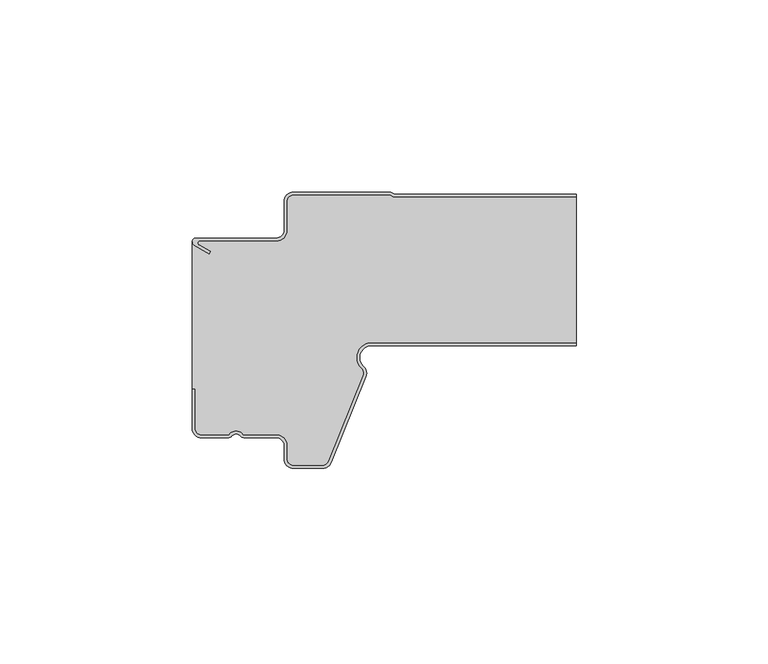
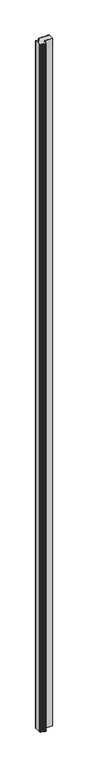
"""IFC4 building model written with IfcOpenShell, lengths in millimetres: plate geometry, ACH_Panel-Cubierta-3-Grecas-P3G : ACH_P3G_3-Rib-Roof-Panel_40M."""

from ifc_helpers import new_model, si_unit, point, frame_2d, origin, origin_with_axes, place, context, project, spatial, polyline, circle_curve, trimmed, segment, composite_curve, outline, extrude, source, transform, mapped, element, save


def plate_1b50292b(model_context):
    return source(origin(), model_context, "Body", "SweptSolid", [
        extrude(outline(composite_curve([segment(polyline([(-49.496875, -13.8660254), (-45.496875, -16.1754265), (-45.096875, -15.4826062), (-48.1272598, -13.7330127)]), True, "CONTINUOUS"), segment(trimmed(circle_curve(frame_2d((-47.8772598, -13.3)), 0.5), [point((-48.1272598, -13.7330127))], [point((-47.8772598, -12.8))], False, "CARTESIAN"), True, "CONTINUOUS"), segment(polyline([(-47.8772598, -12.8), (-27.996875, -12.8)]), True, "CONTINUOUS"), segment(trimmed(circle_curve(frame_2d((-27.996875, -10.0)), 2.8), [point((-27.996875, -12.8))], [point((-25.196875, -10.0))], True, "CARTESIAN"), True, "CONTINUOUS"), segment(polyline([(-25.196875, -10.0), (-25.196875, -2.5)]), True, "CONTINUOUS"), segment(trimmed(circle_curve(frame_2d((-23.496875, -2.5)), 1.7), [point((-25.196875, -2.5))], [point((-23.496875, -0.8))], False, "CARTESIAN"), True, "CONTINUOUS"), segment(polyline([(-23.496875, -0.8), (1.5686408, -0.8), (2.5661408, -1.4), (50.0, -1.4), (50.0, -39.2), (-3.2387629, -39.2)]), True, "CONTINUOUS"), segment(trimmed(circle_curve(frame_2d((-3.2387629, -43.1)), 3.9), [point((-3.2387629, -39.2))], [point((-5.8938106, -45.9566976))], True, "CARTESIAN"), True, "CONTINUOUS"), segment(trimmed(circle_curve(frame_2d((-7.0511391, -47.2019248)), 1.7), [point((-5.8938106, -45.9566976))], [point((-5.4749266, -47.838756))], False, "CARTESIAN"), True, "CONTINUOUS"), segment(polyline([(-5.4749266, -47.838756), (-14.4839337, -70.1368312)]), True, "CONTINUOUS"), segment(trimmed(circle_curve(frame_2d((-16.0601463, -69.5)), 1.7), [point((-14.4839337, -70.1368312))], [point((-16.0601463, -71.2))], False, "CARTESIAN"), True, "CONTINUOUS"), segment(polyline([(-16.0601463, -71.2), (-23.496875, -71.2)]), True, "CONTINUOUS"), segment(trimmed(circle_curve(frame_2d((-23.496875, -69.5)), 1.7), [point((-23.496875, -71.2))], [point((-25.196875, -69.5))], False, "CARTESIAN"), True, "CONTINUOUS"), segment(polyline([(-25.196875, -69.5), (-25.196875, -66.0)]), True, "CONTINUOUS"), segment(trimmed(circle_curve(frame_2d((-27.996875, -66.0)), 2.8), [point((-25.196875, -66.0))], [point((-27.996875, -63.2))], True, "CARTESIAN"), True, "CONTINUOUS"), segment(polyline([(-27.996875, -63.2), (-36.5995084, -63.2)]), True, "CONTINUOUS"), segment(trimmed(circle_curve(frame_2d((-38.496875, -64.5)), 2.3), [point((-36.5995084, -63.2))], [point((-40.3942416, -63.2))], True, "CARTESIAN"), True, "CONTINUOUS"), segment(polyline([(-40.3942416, -63.2), (-47.496875, -63.2)]), True, "CONTINUOUS"), segment(trimmed(circle_curve(frame_2d((-47.496875, -61.5)), 1.7), [point((-47.496875, -63.2))], [point((-49.196875, -61.5))], False, "CARTESIAN"), True, "CONTINUOUS"), segment(polyline([(-49.196875, -61.5), (-49.196875, -51.18), (-49.996875, -51.18), (-49.996875, -13.0)]), True, "CONTINUOUS"), segment(trimmed(circle_curve(frame_2d((-48.996875, -13.0)), 1.0), [point((-49.996875, -13.0))], [point((-49.496875, -13.8660254))], True, "CARTESIAN"), True, "CONTINUOUS")], self_intersect=False)), origin_with_axes(), (0.0, 0.0, 1.0), 5000.0),
        extrude(outline(composite_curve([segment(trimmed(circle_curve(frame_2d((-28.0, -10.0)), 2.0), [point((-28.0, -12.0))], [point((-26.0, -10.0))], True, "CARTESIAN"), True, "CONTINUOUS"), segment(polyline([(-26.0, -10.0), (-26.0, -2.5)]), True, "CONTINUOUS"), segment(trimmed(circle_curve(frame_2d((-23.5, -2.5)), 2.5), [point((-26.0, -2.5))], [point((-23.5, 0.0))], False, "CARTESIAN"), True, "CONTINUOUS"), segment(polyline([(-23.5, 0.0), (1.7875789, 0.0), (2.7850789, -0.6), (50.0, -0.6), (50.0, -1.4), (2.5630158, -1.4), (1.5655158, -0.8), (-23.5, -0.8)]), True, "CONTINUOUS"), segment(trimmed(circle_curve(frame_2d((-23.5, -2.5)), 1.7), [point((-23.5, -0.8))], [point((-25.2, -2.5))], True, "CARTESIAN"), True, "CONTINUOUS"), segment(polyline([(-25.2, -2.5), (-25.2, -10.0)]), True, "CONTINUOUS"), segment(trimmed(circle_curve(frame_2d((-28.0, -10.0)), 2.8), [point((-25.2, -10.0))], [point((-28.0, -12.8))], False, "CARTESIAN"), True, "CONTINUOUS"), segment(polyline([(-28.0, -12.8), (-47.8803848, -12.8)]), True, "CONTINUOUS"), segment(trimmed(circle_curve(frame_2d((-47.8803848, -13.3)), 0.5), [point((-47.8803848, -12.8))], [point((-48.1303848, -13.7330127))], True, "CARTESIAN"), True, "CONTINUOUS"), segment(polyline([(-48.1303848, -13.7330127), (-45.1, -15.4826062), (-45.5, -16.1754265), (-49.5, -13.8660254)]), True, "CONTINUOUS"), segment(trimmed(circle_curve(frame_2d((-49.0, -13.0)), 1.0), [point((-49.5, -13.8660254))], [point((-49.0, -12.0))], False, "CARTESIAN"), True, "CONTINUOUS"), segment(polyline([(-49.0, -12.0), (-28.0, -12.0)]), True, "CONTINUOUS")], self_intersect=False)), origin_with_axes(), (0.0, 0.0, 1.0), 5000.0),
        extrude(outline(composite_curve([segment(polyline([(-50.0, -61.5), (-50.0, -51.18), (-49.2, -51.18), (-49.2, -61.5)]), True, "CONTINUOUS"), segment(trimmed(circle_curve(frame_2d((-47.5, -61.5)), 1.7), [point((-49.2, -61.5))], [point((-47.5, -63.2))], True, "CARTESIAN"), True, "CONTINUOUS"), segment(polyline([(-47.5, -63.2), (-40.3973666, -63.2)]), True, "CONTINUOUS"), segment(trimmed(circle_curve(frame_2d((-38.5, -64.5)), 2.3), [point((-40.3973666, -63.2))], [point((-36.6026334, -63.2))], False, "CARTESIAN"), True, "CONTINUOUS"), segment(polyline([(-36.6026334, -63.2), (-28.0, -63.2)]), True, "CONTINUOUS"), segment(trimmed(circle_curve(frame_2d((-28.0, -66.0)), 2.8), [point((-28.0, -63.2))], [point((-25.2, -66.0))], False, "CARTESIAN"), True, "CONTINUOUS"), segment(polyline([(-25.2, -66.0), (-25.2, -69.5)]), True, "CONTINUOUS"), segment(trimmed(circle_curve(frame_2d((-23.5, -69.5)), 1.7), [point((-25.2, -69.5))], [point((-23.5, -71.2))], True, "CARTESIAN"), True, "CONTINUOUS"), segment(polyline([(-23.5, -71.2), (-16.0632713, -71.2)]), True, "CONTINUOUS"), segment(trimmed(circle_curve(frame_2d((-16.0632713, -69.5)), 1.7), [point((-16.0632713, -71.2))], [point((-14.4870587, -70.1368312))], True, "CARTESIAN"), True, "CONTINUOUS"), segment(polyline([(-14.4870587, -70.1368312), (-5.4780516, -47.838756)]), True, "CONTINUOUS"), segment(trimmed(circle_curve(frame_2d((-7.0542641, -47.2019248)), 1.7), [point((-5.4780516, -47.838756))], [point((-5.8969356, -45.9566976))], True, "CARTESIAN"), True, "CONTINUOUS"), segment(trimmed(circle_curve(frame_2d((-3.2418879, -43.1)), 3.9), [point((-5.8969356, -45.9566976))], [point((-3.2418879, -39.2))], False, "CARTESIAN"), True, "CONTINUOUS"), segment(polyline([(-3.2418879, -39.2), (50.0, -39.2), (50.0, -40.0), (-3.2418879, -40.0)]), True, "CONTINUOUS"), segment(trimmed(circle_curve(frame_2d((-3.2418879, -43.1)), 3.1), [point((-3.2418879, -40.0))], [point((-5.3523104, -45.3707084))], True, "CARTESIAN"), True, "CONTINUOUS"), segment(trimmed(circle_curve(frame_2d((-7.0542641, -47.2019248)), 2.5), [point((-5.3523104, -45.3707084))], [point((-4.7363045, -48.1384413))], False, "CARTESIAN"), True, "CONTINUOUS"), segment(polyline([(-4.7363045, -48.1384413), (-13.7453117, -70.4365165)]), True, "CONTINUOUS"), segment(trimmed(circle_curve(frame_2d((-16.0632713, -69.5)), 2.5), [point((-13.7453117, -70.4365165))], [point((-16.0632713, -72.0))], False, "CARTESIAN"), True, "CONTINUOUS"), segment(polyline([(-16.0632713, -72.0), (-23.5, -72.0)]), True, "CONTINUOUS"), segment(trimmed(circle_curve(frame_2d((-23.5, -69.5)), 2.5), [point((-23.5, -72.0))], [point((-26.0, -69.5))], False, "CARTESIAN"), True, "CONTINUOUS"), segment(polyline([(-26.0, -69.5), (-26.0, -66.0)]), True, "CONTINUOUS"), segment(trimmed(circle_curve(frame_2d((-28.0, -66.0)), 2.0), [point((-26.0, -66.0))], [point((-28.0, -64.0))], True, "CARTESIAN"), True, "CONTINUOUS"), segment(polyline([(-28.0, -64.0), (-36.263932, -64.0)]), True, "CONTINUOUS"), segment(trimmed(circle_curve(frame_2d((-36.263932, -62.5)), 1.5), [point((-36.263932, -64.0))], [point((-37.381966, -63.5))], False, "CARTESIAN"), True, "CONTINUOUS"), segment(trimmed(circle_curve(frame_2d((-38.5, -64.5)), 1.5), [point((-37.381966, -63.5))], [point((-39.618034, -63.5))], True, "CARTESIAN"), True, "CONTINUOUS"), segment(trimmed(circle_curve(frame_2d((-40.736068, -62.5)), 1.5), [point((-39.618034, -63.5))], [point((-40.736068, -64.0))], False, "CARTESIAN"), True, "CONTINUOUS"), segment(polyline([(-40.736068, -64.0), (-47.5, -64.0)]), True, "CONTINUOUS"), segment(trimmed(circle_curve(frame_2d((-47.5, -61.5)), 2.5), [point((-47.5, -64.0))], [point((-50.0, -61.5))], False, "CARTESIAN"), True, "CONTINUOUS")], self_intersect=False)), origin_with_axes(), (0.0, 0.0, 1.0), 5000.0),
    ])


if __name__ == "__main__":
    model = new_model("IFC4")
    model_context = context("Model", 3, world=origin())
    ifc_project = project(units=[si_unit("LENGTHUNIT", "METRE", prefix="MILLI")], contexts=[model_context])
    site = spatial("IfcSite", under=ifc_project)
    building = spatial("IfcBuilding", under=site)
    placement = place(None, origin())
    plate_shape = plate_1b50292b(model_context)
    element("IfcPlate", 1, ObjectType="ACH_Panel-Cubierta-3-Grecas-P3G : ACH_P3G_3-Rib-Roof-Panel_40M", at=placement, inside=building, context=model_context, shape_type="MappedRepresentation", body=[
        mapped(plate_shape, transform((0.0, 0.0, 0.0), x_axis=(1.0, 0.0, 0.0), y_axis=(0.0, 1.0, 0.0), z_axis=(0.0, 0.0, 1.0))),
    ])
    save(model, "model.ifc")
